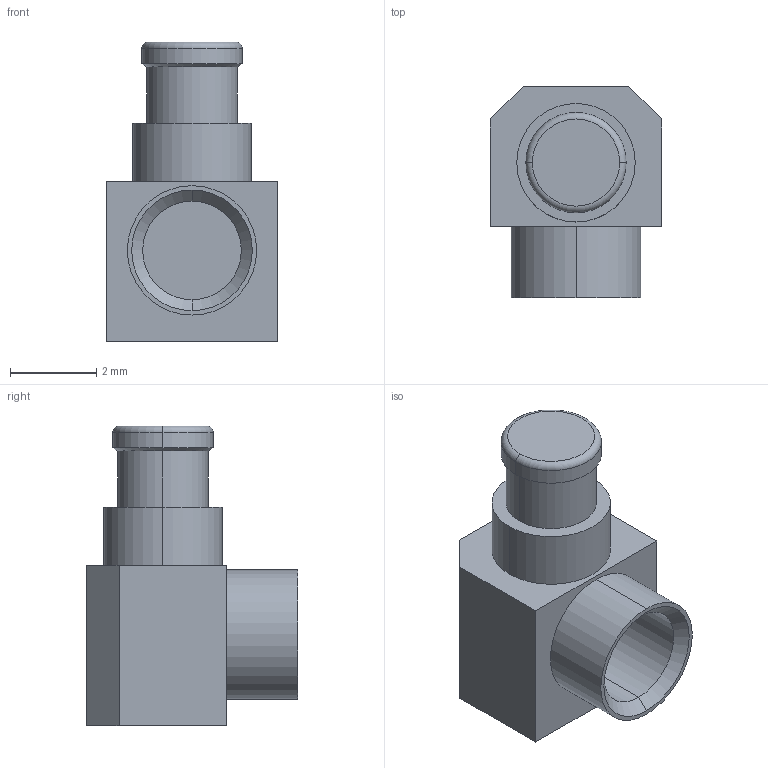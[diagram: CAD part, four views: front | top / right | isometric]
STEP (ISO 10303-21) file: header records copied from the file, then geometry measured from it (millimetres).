
FILE_DESCRIPTION (( 'STEP AP214' ), '1' );
FILE_NAME ('3222-40002.STEP', '2015-08-04T17:18:04', ( 'image' ), ( '' ), 'SwSTEP 2.0', 'SolidWorks 2014', '' );
FILE_SCHEMA (( 'AUTOMOTIVE_DESIGN' ));
Length unit declared in the file: inch
Products named in the file (1): 3222-40002
Bounding box: 3.96 x 4.9 x 6.95 mm (x, y, z)
Volume: 63.7 mm3; surface area: 129 mm2
Topology: 1 solids, 1 shells, 31 faces, 64 edges, 40 vertices
Faces by surface type: plane 13, cylinder 10, cone 6, torus 2
Entity records: 1267 total; most frequent: DIRECTION 158, CARTESIAN_POINT 136, ORIENTED_EDGE 128, EDGE_CURVE 64, AXIS2_PLACEMENT_3D 62, VERTEX_POINT 40, EDGE_LOOP 36, LENGTH_MEASURE_WITH_UNIT 34
